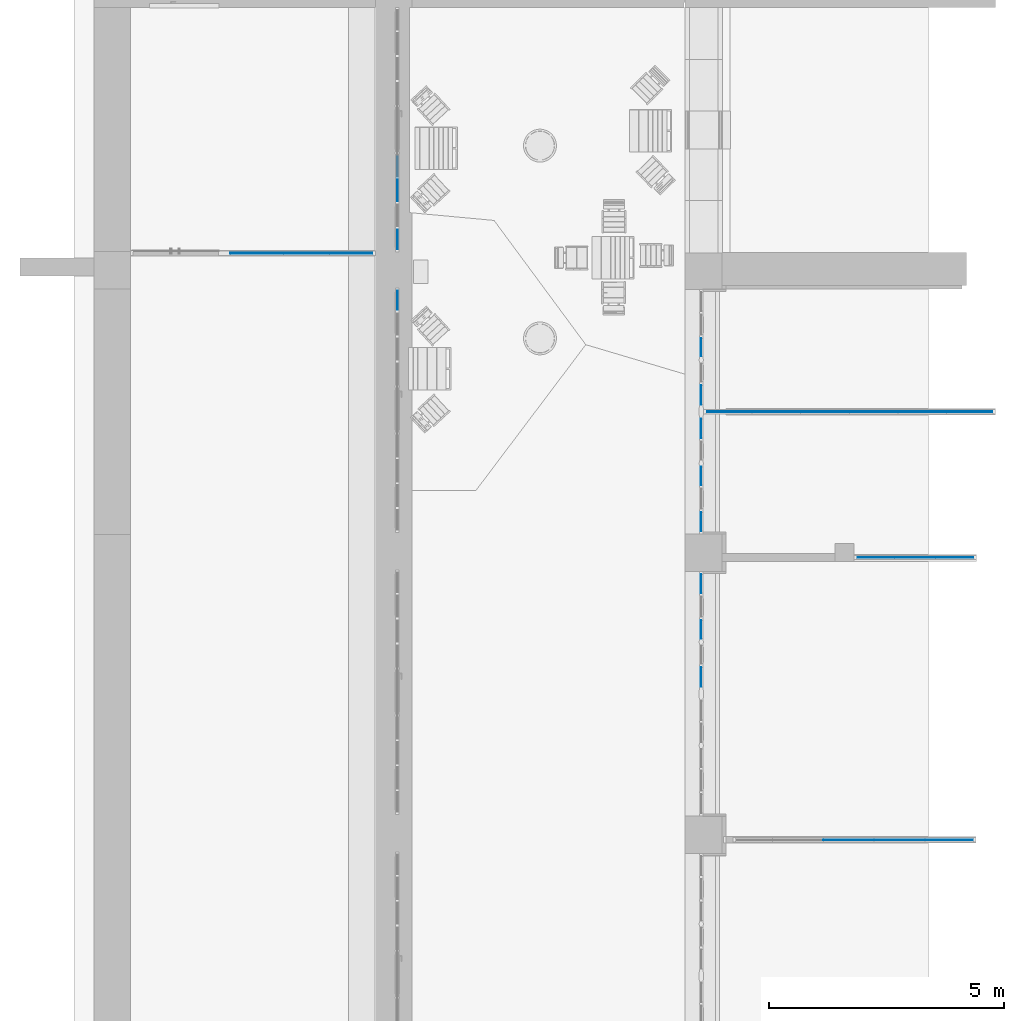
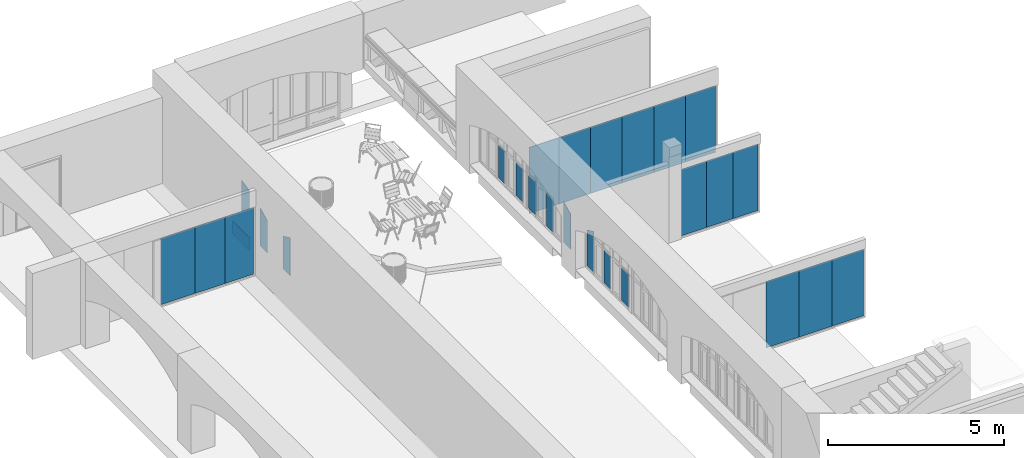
# One storey, part 65 of 88: 27 plates, 8 elements without a shape of their own.
"""IFC2X3 building model written with IfcOpenShell, lengths in millimetres."""

from ifc_helpers import new_model, entity, si_unit, converted_unit, derived_unit, direction, frame, frame_2d, origin, origin_2d_with_axis, place, context, subcontext, project, spatial, polyline, circle_curve, parameter, trimmed, segment, composite_curve, rectangle, outline, extrude, source, transform, mapped, material, type_object, type_shapes, element, aggregate, save


model = new_model("IFC2X3")

# Units and contexts
model_context = context("Model", 3, precision=0.01, world=origin(), true_north=direction((6.123031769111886e-17, 1.0)))
body_context = subcontext(model_context, "Body", "Model", "MODEL_VIEW")
ifc_project = project(units=[si_unit("LENGTHUNIT", "METRE", prefix="MILLI"), si_unit("AREAUNIT", "SQUARE_METRE"), si_unit("VOLUMEUNIT", "CUBIC_METRE"), converted_unit("PLANEANGLEUNIT", "DEGREE", entity("IfcPlaneAngleMeasure", 0.017453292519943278), si_unit("PLANEANGLEUNIT", "RADIAN"), dimensions=[0, 0, 0, 0, 0, 0, 0]), si_unit("MASSUNIT", "GRAM", prefix="KILO"), derived_unit("MASSDENSITYUNIT", [(si_unit("MASSUNIT", "GRAM", prefix="KILO"), 1), (si_unit("LENGTHUNIT", "METRE"), -3)]), derived_unit("IONCONCENTRATIONUNIT", [(si_unit("MASSUNIT", "GRAM", prefix="KILO"), 1), (si_unit("LENGTHUNIT", "METRE"), -3)]), derived_unit("MOMENTOFINERTIAUNIT", [(si_unit("LENGTHUNIT", "METRE"), 4)]), si_unit("TIMEUNIT", "SECOND"), si_unit("FREQUENCYUNIT", "HERTZ"), si_unit("THERMODYNAMICTEMPERATUREUNIT", "DEGREE_CELSIUS"), derived_unit("THERMALTRANSMITTANCEUNIT", [(si_unit("MASSUNIT", "GRAM", prefix="KILO"), 1), (si_unit("THERMODYNAMICTEMPERATUREUNIT", "KELVIN"), -1), (si_unit("TIMEUNIT", "SECOND"), -3)]), derived_unit("THERMALCONDUCTANCEUNIT", [(si_unit("MASSUNIT", "GRAM", prefix="KILO"), 1), (si_unit("THERMODYNAMICTEMPERATUREUNIT", "KELVIN"), -1), (si_unit("TIMEUNIT", "SECOND"), -3), (si_unit("LENGTHUNIT", "METRE"), 1)]), derived_unit("VOLUMETRICFLOWRATEUNIT", [(si_unit("LENGTHUNIT", "METRE", prefix="DECI"), 3), (si_unit("TIMEUNIT", "SECOND"), -1)]), derived_unit("MASSFLOWRATEUNIT", [(si_unit("MASSUNIT", "GRAM", prefix="KILO"), 1), (si_unit("TIMEUNIT", "SECOND"), -1)]), derived_unit("ROTATIONALFREQUENCYUNIT", [(si_unit("TIMEUNIT", "SECOND"), -1)]), si_unit("ELECTRICCURRENTUNIT", "AMPERE"), si_unit("ELECTRICVOLTAGEUNIT", "VOLT"), si_unit("POWERUNIT", "WATT"), si_unit("FORCEUNIT", "NEWTON", prefix="KILO"), si_unit("ILLUMINANCEUNIT", "LUX"), si_unit("LUMINOUSFLUXUNIT", "LUMEN"), si_unit("LUMINOUSINTENSITYUNIT", "CANDELA"), si_unit("ENERGYUNIT", "JOULE"), derived_unit("USERDEFINED", [(si_unit("MASSUNIT", "GRAM", prefix="KILO"), -1), (si_unit("LENGTHUNIT", "METRE"), -2), (si_unit("TIMEUNIT", "SECOND"), 3), (si_unit("LUMINOUSFLUXUNIT", "LUMEN"), 1)]), derived_unit("USERDEFINED", [(si_unit("MASSUNIT", "GRAM", prefix="KILO"), 1), (si_unit("TIMEUNIT", "SECOND"), -3), (si_unit("LENGTHUNIT", "METRE"), 3), (si_unit("ELECTRICCURRENTUNIT", "AMPERE"), -2)]), derived_unit("SOUNDPOWERUNIT", [(si_unit("MASSUNIT", "GRAM", prefix="KILO"), 1), (si_unit("TIMEUNIT", "SECOND"), -3), (si_unit("LENGTHUNIT", "METRE"), 2)]), derived_unit("SOUNDPRESSUREUNIT", [(si_unit("MASSUNIT", "GRAM", prefix="KILO"), 1), (si_unit("LENGTHUNIT", "METRE"), -1), (si_unit("TIMEUNIT", "SECOND"), -2)]), derived_unit("LINEARVELOCITYUNIT", [(si_unit("LENGTHUNIT", "METRE"), 1), (si_unit("TIMEUNIT", "SECOND"), -1)]), si_unit("PRESSUREUNIT", "PASCAL"), derived_unit("USERDEFINED", [(si_unit("MASSUNIT", "GRAM", prefix="KILO"), 1), (si_unit("LENGTHUNIT", "METRE"), -2), (si_unit("TIMEUNIT", "SECOND"), -2)]), derived_unit("LINEARFORCEUNIT", [(si_unit("MASSUNIT", "GRAM", prefix="KILO"), 1), (si_unit("TIMEUNIT", "SECOND"), -2)]), derived_unit("PLANARFORCEUNIT", [(si_unit("MASSUNIT", "GRAM", prefix="KILO"), 1), (si_unit("LENGTHUNIT", "METRE"), -1), (si_unit("TIMEUNIT", "SECOND"), -2)]), derived_unit("SPECIFICHEATCAPACITYUNIT", [(si_unit("THERMODYNAMICTEMPERATUREUNIT", "KELVIN"), -1), (si_unit("LENGTHUNIT", "METRE"), 2), (si_unit("TIMEUNIT", "SECOND"), -2)]), derived_unit("HEATFLUXDENSITYUNIT", [(si_unit("MASSUNIT", "GRAM", prefix="KILO"), 1), (si_unit("TIMEUNIT", "SECOND"), -3)]), derived_unit("HEATINGVALUEUNIT", [(si_unit("LENGTHUNIT", "METRE"), 2), (si_unit("TIMEUNIT", "SECOND"), -2)]), derived_unit("VAPORPERMEABILITYUNIT", [(si_unit("LENGTHUNIT", "METRE"), -1), (si_unit("TIMEUNIT", "SECOND"), 1)]), derived_unit("DYNAMICVISCOSITYUNIT", [(si_unit("MASSUNIT", "GRAM", prefix="KILO"), 1), (si_unit("TIMEUNIT", "SECOND"), -1), (si_unit("LENGTHUNIT", "METRE"), -1)]), derived_unit("THERMALEXPANSIONCOEFFICIENTUNIT", [(si_unit("THERMODYNAMICTEMPERATUREUNIT", "KELVIN"), -1)]), derived_unit("MODULUSOFELASTICITYUNIT", [(si_unit("MASSUNIT", "GRAM", prefix="KILO"), 1), (si_unit("LENGTHUNIT", "METRE"), -1), (si_unit("TIMEUNIT", "SECOND"), -2)]), derived_unit("ISOTHERMALMOISTURECAPACITYUNIT", [(si_unit("MASSUNIT", "GRAM", prefix="KILO"), -1), (si_unit("LENGTHUNIT", "METRE"), 3)]), derived_unit("MOISTUREDIFFUSIVITYUNIT", [(si_unit("TIMEUNIT", "SECOND"), -1), (si_unit("LENGTHUNIT", "METRE"), 2)]), derived_unit("MASSPERLENGTHUNIT", [(si_unit("MASSUNIT", "GRAM", prefix="KILO"), 1), (si_unit("LENGTHUNIT", "METRE"), -1)]), derived_unit("THERMALRESISTANCEUNIT", [(si_unit("MASSUNIT", "GRAM", prefix="KILO"), -1), (si_unit("TIMEUNIT", "SECOND"), 3), (si_unit("THERMODYNAMICTEMPERATUREUNIT", "KELVIN"), 1)]), derived_unit("ACCELERATIONUNIT", [(si_unit("LENGTHUNIT", "METRE"), 1), (si_unit("TIMEUNIT", "SECOND"), -2)]), derived_unit("ANGULARVELOCITYUNIT", [(si_unit("TIMEUNIT", "SECOND"), -1), (si_unit("PLANEANGLEUNIT", "RADIAN"), 1)]), derived_unit("LINEARSTIFFNESSUNIT", [(si_unit("MASSUNIT", "GRAM", prefix="KILO"), 1), (si_unit("TIMEUNIT", "SECOND"), -2)]), derived_unit("WARPINGCONSTANTUNIT", [(si_unit("LENGTHUNIT", "METRE"), 6)]), derived_unit("LINEARMOMENTUNIT", [(si_unit("MASSUNIT", "GRAM", prefix="KILO"), 1), (si_unit("LENGTHUNIT", "METRE"), 1), (si_unit("TIMEUNIT", "SECOND"), -2)]), derived_unit("TORQUEUNIT", [(si_unit("MASSUNIT", "GRAM", prefix="KILO"), 1), (si_unit("LENGTHUNIT", "METRE"), 2), (si_unit("TIMEUNIT", "SECOND"), -2)])], contexts=[model_context])

# Site, building, storey
site_placement = place(None, origin())
site = spatial("IfcSite", under=ifc_project, at=site_placement, Name="Default", CompositionType="ELEMENT")
building_placement = place(site_placement, origin())
building = spatial("IfcBuilding", under=site, at=building_placement, Name="Eesti Rahvusraamatukogu hoone renoveerimise projekteerimistööd", CompositionType="ELEMENT")
storey_placement = place(building_placement, origin())
storey = spatial("IfcBuildingStorey", under=building, at=storey_placement, Name="1. korrus", CompositionType="ELEMENT", Elevation=0.0)

# Curtain wall, plates
curtain_wall_type_1 = type_object("IfcCurtainWallType", Name="Curtain Wall:VLS Klaasvahesein profiilita 38db", PredefinedType="NOTDEFINED")
curtain_wall_1_placement = place(storey_placement, origin())
curtain_wall_1 = element("IfcCurtainWall", 1, at=curtain_wall_1_placement, inside=storey, type_object=curtain_wall_type_1, Name="Curtain Wall:VLS Klaasvahesein profiilita 38db", ObjectType="Curtain Wall:VLS Klaasvahesein profiilita 38db")
ifc_material_1 = material(Name="EST. Klaas. 1x. E-korpus")
plate_type_1 = type_object("IfcPlateType", Name="System Panel:VLS Klaas KAR/LAM 6+1+6", PredefinedType="CURTAIN_PANEL", material=ifc_material_1)
shared_shape_1 = source(origin(), body_context, "Body", "SweptSolid", [
    extrude(rectangle(XDim=13.000000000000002, YDim=928.6246354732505, at=origin_2d_with_axis()), frame((0.0, 0.0, 0.0), z_axis=(0.0, 0.0, 1.0), x_axis=(0.0, 1.0, 0.0)), (0.0, 0.0, 1.0), 2300.0),
])
type_shapes(plate_type_1, [shared_shape_1])
plate_1_placement = place(curtain_wall_1_placement, frame((-43884.312317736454, 48760.37627987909, 50.0), z_axis=(0.0, 0.0, 1.0), x_axis=(-1.0, 0.0, 0.0)))
plate_1 = element("IfcPlate", 2, at=plate_1_placement, type_object=plate_type_1, material=ifc_material_1, Name="System Panel:VLS Klaas KAR/LAM 6+1+6", ObjectType="System Panel:VLS Klaas KAR/LAM 6+1+6", context=body_context, shape_type="MappedRepresentation", body=[
    mapped(shared_shape_1, transform((0.0, 0.0, 0.0), scale=1.0)),
])
plate_type_2 = type_object("IfcPlateType", Name="System Panel:VLS Klaas KAR/LAM 6+1+6", PredefinedType="CURTAIN_PANEL", material=ifc_material_1)
shared_shape_2 = source(origin(), body_context, "Body", "SweptSolid", [
    extrude(rectangle(XDim=13.000000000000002, YDim=978.6246351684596, at=origin_2d_with_axis()), frame((0.0, 0.0, 0.0), z_axis=(0.0, 0.0, 1.0), x_axis=(0.0, 1.0, 0.0)), (0.0, 0.0, 1.0), 2300.0),
])
type_shapes(plate_type_2, [shared_shape_2])
plate_2_placement = place(curtain_wall_1_placement, frame((-44837.93695305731, 48760.3762798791, 50.0), z_axis=(0.0, 0.0, 1.0), x_axis=(-1.0, 0.0, 0.0)))
plate_2 = element("IfcPlate", 3, at=plate_2_placement, type_object=plate_type_2, material=ifc_material_1, Name="System Panel:VLS Klaas KAR/LAM 6+1+6", ObjectType="System Panel:VLS Klaas KAR/LAM 6+1+6", context=body_context, shape_type="MappedRepresentation", body=[
    mapped(shared_shape_2, transform((0.0, 0.0, 0.0), scale=1.0)),
])
plate_type_3 = type_object("IfcPlateType", Name="System Panel:VLS Klaas KAR/LAM 6+1+6", PredefinedType="CURTAIN_PANEL", material=ifc_material_1)
shared_shape_3 = source(origin(), body_context, "Body", "SweptSolid", [
    extrude(rectangle(XDim=13.000000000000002, YDim=1127.717776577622, at=origin_2d_with_axis()), frame((0.0, 0.0, 0.0), z_axis=(0.0, 0.0, 1.0), x_axis=(0.0, 1.0, 0.0)), (0.0, 0.0, 1.0), 2300.0),
])
type_shapes(plate_type_3, [shared_shape_3])
plate_3_placement = place(curtain_wall_1_placement, frame((-45891.10815893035, 48760.3762798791, 50.0), z_axis=(0.0, 0.0, 1.0), x_axis=(-1.0, 0.0, 0.0)))
plate_3 = element("IfcPlate", 4, at=plate_3_placement, type_object=plate_type_3, material=ifc_material_1, Name="System Panel:VLS Klaas KAR/LAM 6+1+6", ObjectType="System Panel:VLS Klaas KAR/LAM 6+1+6", context=body_context, shape_type="MappedRepresentation", body=[
    mapped(shared_shape_3, transform((0.0, 0.0, 0.0), scale=1.0)),
])
aggregate(curtain_wall_1, [plate_1, plate_2, plate_3])

curtain_wall_2_placement = place(storey_placement, origin())
curtain_wall_2 = element("IfcCurtainWall", 5, at=curtain_wall_2_placement, inside=storey, type_object=curtain_wall_type_1, Name="Curtain Wall:VLS Klaasvahesein profiilita 38db", ObjectType="Curtain Wall:VLS Klaasvahesein profiilita 38db")
plate_type_4 = type_object("IfcPlateType", Name="System Panel:VLS Klaas KAR/LAM 6+1+6", PredefinedType="CURTAIN_PANEL", material=ifc_material_1)
shared_shape_4 = source(origin(), body_context, "Body", "SweptSolid", [
    extrude(rectangle(XDim=13.000000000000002, YDim=816.0000000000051, at=origin_2d_with_axis()), frame((0.0, 0.0, 0.0), z_axis=(0.0, 0.0, 1.0), x_axis=(0.0, 1.0, 0.0)), (0.0, 0.0, 1.0), 2300.0000000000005),
])
type_shapes(plate_type_4, [shared_shape_4])
plate_4_placement = place(curtain_wall_2_placement, frame((-32732.0, 42290.0, 1700.0)))
plate_4 = element("IfcPlate", 6, at=plate_4_placement, type_object=plate_type_4, material=ifc_material_1, Name="System Panel:VLS Klaas KAR/LAM 6+1+6", ObjectType="System Panel:VLS Klaas KAR/LAM 6+1+6", context=body_context, shape_type="MappedRepresentation", body=[
    mapped(shared_shape_4, transform((0.0, 0.0, 0.0), scale=1.0)),
])
plate_type_5 = type_object("IfcPlateType", Name="System Panel:VLS Klaas KAR/LAM 6+1+6", PredefinedType="CURTAIN_PANEL", material=ifc_material_1)
shared_shape_5 = source(origin(), body_context, "Body", "SweptSolid", [
    extrude(rectangle(XDim=13.000000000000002, YDim=866.0000000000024, at=origin_2d_with_axis()), frame((0.0, 0.0, 0.0), z_axis=(0.0, 0.0, 1.0), x_axis=(0.0, 1.0, 0.0)), (0.0, 0.0, 1.0), 2300.0000000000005),
])
type_shapes(plate_type_5, [shared_shape_5])
plate_5_placement = place(curtain_wall_2_placement, frame((-31891.0, 42290.0, 1700.0)))
plate_5 = element("IfcPlate", 7, at=plate_5_placement, type_object=plate_type_5, material=ifc_material_1, Name="System Panel:VLS Klaas KAR/LAM 6+1+6", ObjectType="System Panel:VLS Klaas KAR/LAM 6+1+6", context=body_context, shape_type="MappedRepresentation", body=[
    mapped(shared_shape_5, transform((0.0, 0.0, 0.0), scale=1.0)),
])
plate_type_6 = type_object("IfcPlateType", Name="System Panel:VLS Klaas KAR/LAM 6+1+6", PredefinedType="CURTAIN_PANEL", material=ifc_material_1)
shared_shape_6 = source(origin(), body_context, "Body", "SweptSolid", [
    extrude(rectangle(XDim=13.000000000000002, YDim=818.0000000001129, at=origin_2d_with_axis()), frame((0.0, 0.0, 0.0), z_axis=(0.0, 0.0, 1.0), x_axis=(0.0, 1.0, 0.0)), (0.0, 0.0, 1.0), 2300.0000000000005),
])
type_shapes(plate_type_6, [shared_shape_6])
plate_6_placement = place(curtain_wall_2_placement, frame((-31049.0, 42290.0, 1700.0)))
plate_6 = element("IfcPlate", 8, at=plate_6_placement, type_object=plate_type_6, material=ifc_material_1, Name="System Panel:VLS Klaas KAR/LAM 6+1+6", ObjectType="System Panel:VLS Klaas KAR/LAM 6+1+6", context=body_context, shape_type="MappedRepresentation", body=[
    mapped(shared_shape_6, transform((0.0, 0.0, 0.0), scale=1.0)),
])
aggregate(curtain_wall_2, [plate_4, plate_5, plate_6])

# Curtain wall, plate
curtain_wall_type_2 = type_object("IfcCurtainWallType", Name="Curtain Wall:Ak-02", PredefinedType="NOTDEFINED")
curtain_wall_3_placement = place(storey_placement, origin())
curtain_wall_3 = element("IfcCurtainWall", 9, at=curtain_wall_3_placement, inside=storey, type_object=curtain_wall_type_2, Name="Curtain Wall:Ak-02", ObjectType="Curtain Wall:Ak-02")
ifc_material_2 = material(Name="EST. Klaas. 3x. Default")
plate_type_7 = type_object("IfcPlateType", Name="System Panel:Peegelaknad 6-16-4-16-4, paneel", PredefinedType="CURTAIN_PANEL", material=ifc_material_2)
shared_shape_7 = source(origin(), body_context, "Body", "SweptSolid", [
    extrude(outline(composite_curve([segment(polyline([(-838.8855000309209, -200.0), (351.11449996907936, -200.0)]), True, "CONTINUOUS"), segment(polyline([(351.11449996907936, -200.0), (392.3931648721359, -200.0)]), True, "CONTINUOUS"), segment(trimmed(circle_curve(frame_2d((-4419.029401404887, 2340.0), x_axis=(0.9248280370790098, -0.38038546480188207)), 5440.715680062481), [parameter(354.5275221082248)], [parameter(359.19566238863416)], True, "PARAMETER"), True, "CONTINUOUS"), segment(polyline([(583.1488352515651, 200.0), (351.11449996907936, 200.0)]), True, "CONTINUOUS"), segment(polyline([(351.11449996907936, 200.0), (-838.8855000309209, 200.0)]), True, "CONTINUOUS"), segment(polyline([(-838.8855000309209, 200.0), (-838.8855000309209, -200.0)]), True, "CONTINUOUS")], self_intersect=False)), frame((0.0, -5.0, 838.8855000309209), z_axis=(0.0, 1.0, 0.0), x_axis=(0.0, 0.0, 1.0)), (0.0, 0.0, 1.0), 10.0),
])
type_shapes(plate_type_7, [shared_shape_7])
plate_7_placement = place(curtain_wall_3_placement, frame((-36440.0, 41730.0, 2040.0), z_axis=(0.0, 0.0, 1.0), x_axis=(0.0, -1.0, 0.0)))
plate_7 = element("IfcPlate", 10, at=plate_7_placement, type_object=plate_type_7, material=ifc_material_2, Name="System Panel:Peegelaknad 6-16-4-16-4, paneel", ObjectType="System Panel:Peegelaknad 6-16-4-16-4, paneel", context=body_context, shape_type="MappedRepresentation", body=[
    mapped(shared_shape_7, transform((0.0, 0.0, 0.0), scale=1.0)),
])

# Curtain wall, plates
curtain_wall_4_placement = place(storey_placement, origin())
curtain_wall_4 = element("IfcCurtainWall", 11, at=curtain_wall_4_placement, inside=storey, type_object=curtain_wall_type_2, Name="Curtain Wall:Ak-02", ObjectType="Curtain Wall:Ak-02")
plate_type_8 = type_object("IfcPlateType", Name="System Panel:Peegelaknad 6-16-4-16-4, paneel", PredefinedType="CURTAIN_PANEL", material=ifc_material_2)
shared_shape_8 = source(origin(), body_context, "Body", "SweptSolid", [
    extrude(rectangle(XDim=10.0, YDim=384.9999999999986, at=origin_2d_with_axis()), frame((0.0, 0.0, 0.0), z_axis=(0.0, 0.0, 1.0), x_axis=(0.0, 1.0, 0.0)), (0.0, 0.0, 1.0), 1150.0000000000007),
])
type_shapes(plate_type_8, [shared_shape_8])
plate_8_placement = place(curtain_wall_4_placement, frame((-36440.0, 46757.49999999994, 2040.0), z_axis=(0.0, 0.0, 1.0), x_axis=(0.0, -1.0, 0.0)))
plate_8 = element("IfcPlate", 12, at=plate_8_placement, type_object=plate_type_8, material=ifc_material_2, Name="System Panel:Peegelaknad 6-16-4-16-4, paneel", ObjectType="System Panel:Peegelaknad 6-16-4-16-4, paneel", context=body_context, shape_type="MappedRepresentation", body=[
    mapped(shared_shape_8, transform((0.0, 0.0, 0.0), scale=1.0)),
])
plate_9_placement = place(curtain_wall_4_placement, frame((-36440.0, 44022.50000000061, 2040.0), z_axis=(0.0, 0.0, 1.0), x_axis=(0.0, -1.0, 0.0)))
plate_9 = element("IfcPlate", 13, at=plate_9_placement, type_object=plate_type_8, material=ifc_material_2, Name="System Panel:Peegelaknad 6-16-4-16-4, paneel", ObjectType="System Panel:Peegelaknad 6-16-4-16-4, paneel", context=body_context, shape_type="MappedRepresentation", body=[
    mapped(shared_shape_8, transform((0.0, 0.0, 0.0), scale=1.0)),
])

# Plate
plate_10_placement = place(curtain_wall_3_placement, frame((-36440.0, 40757.49999999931, 2040.0), z_axis=(0.0, 0.0, 1.0), x_axis=(0.0, -1.0, 0.0)))
plate_10 = element("IfcPlate", 14, at=plate_10_placement, type_object=plate_type_8, material=ifc_material_2, Name="System Panel:Peegelaknad 6-16-4-16-4, paneel", ObjectType="System Panel:Peegelaknad 6-16-4-16-4, paneel", context=body_context, shape_type="MappedRepresentation", body=[
    mapped(shared_shape_8, transform((0.0, 0.0, 0.0), scale=1.0)),
])

plate_type_9 = type_object("IfcPlateType", Name="System Panel:Peegelaknad 6-16-4-16-4, paneel", PredefinedType="CURTAIN_PANEL", material=ifc_material_2)
shared_shape_9 = source(origin(), body_context, "Body", "SweptSolid", [
    extrude(rectangle(XDim=10.0, YDim=409.9999999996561, at=origin_2d_with_axis()), frame((0.0, 0.0, 0.0), z_axis=(0.0, 0.0, 1.0), x_axis=(0.0, 1.0, 0.0)), (0.0, 0.0, 1.0), 1150.0000000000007),
])
type_shapes(plate_type_9, [shared_shape_9])
plate_11_placement = place(curtain_wall_4_placement, frame((-36440.0, 45745.0, 2040.0), z_axis=(0.0, 0.0, 1.0), x_axis=(0.0, -1.0, 0.0)))
plate_11 = element("IfcPlate", 15, at=plate_11_placement, type_object=plate_type_9, material=ifc_material_2, Name="System Panel:Peegelaknad 6-16-4-16-4, paneel", ObjectType="System Panel:Peegelaknad 6-16-4-16-4, paneel", context=body_context, shape_type="MappedRepresentation", body=[
    mapped(shared_shape_9, transform((0.0, 0.0, 0.0), scale=1.0)),
])

plate_12_placement = place(curtain_wall_4_placement, frame((-36440.0, 45035.0, 2040.0), z_axis=(0.0, 0.0, 1.0), x_axis=(0.0, -1.0, 0.0)))
plate_12 = element("IfcPlate", 16, at=plate_12_placement, type_object=plate_type_9, material=ifc_material_2, Name="System Panel:Peegelaknad 6-16-4-16-4, paneel", ObjectType="System Panel:Peegelaknad 6-16-4-16-4, paneel", context=body_context, shape_type="MappedRepresentation", body=[
    mapped(shared_shape_9, transform((0.0, 0.0, 0.0), scale=1.0)),
])

plate_13_placement = place(curtain_wall_3_placement, frame((-36440.0, 39745.0, 2040.0), z_axis=(0.0, 0.0, 1.0), x_axis=(0.0, -1.0, 0.0)))
plate_13 = element("IfcPlate", 17, at=plate_13_placement, type_object=plate_type_9, material=ifc_material_2, Name="System Panel:Peegelaknad 6-16-4-16-4, paneel", ObjectType="System Panel:Peegelaknad 6-16-4-16-4, paneel", context=body_context, shape_type="MappedRepresentation", body=[
    mapped(shared_shape_9, transform((0.0, 0.0, 0.0), scale=1.0)),
])

aggregate(curtain_wall_3, [plate_7, plate_10, plate_13])

plate_type_10 = type_object("IfcPlateType", Name="System Panel:Peegelaknad 6-16-4-16-4, paneel", PredefinedType="CURTAIN_PANEL", material=ifc_material_2)
shared_shape_10 = source(origin(), body_context, "Body", "SweptSolid", [
    extrude(outline(composite_curve([segment(polyline([(-838.8855000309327, 200.0), (-838.8855000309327, -200.0)]), True, "CONTINUOUS"), segment(polyline([(-838.8855000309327, -200.0), (351.11449996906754, -200.0)]), True, "CONTINUOUS"), segment(polyline([(351.11449996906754, -200.0), (392.39316487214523, -200.0)]), True, "CONTINUOUS"), segment(trimmed(circle_curve(frame_2d((-4419.029401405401, 2340.0), x_axis=(0.8821580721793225, -0.4709534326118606)), 5440.715680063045), [parameter(0.2661645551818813)], [parameter(4.934304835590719)], True, "PARAMETER"), True, "CONTINUOUS"), segment(polyline([(583.1488352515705, 200.0), (351.11449996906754, 200.0)]), True, "CONTINUOUS"), segment(polyline([(351.11449996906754, 200.0), (-838.8855000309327, 200.0)]), True, "CONTINUOUS")], self_intersect=False)), frame((0.0, -5.0, 838.8855000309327), z_axis=(0.0, -1.0, 0.0), x_axis=(0.0, 0.0, 1.0)), (0.0, 0.0, -1.0), 10.0),
])
type_shapes(plate_type_10, [shared_shape_10])
plate_14_placement = place(curtain_wall_4_placement, frame((-36440.0, 43050.0, 2040.0), z_axis=(0.0, 0.0, 1.0), x_axis=(0.0, -1.0, 0.0)))
plate_14 = element("IfcPlate", 18, at=plate_14_placement, type_object=plate_type_10, material=ifc_material_2, Name="System Panel:Peegelaknad 6-16-4-16-4, paneel", ObjectType="System Panel:Peegelaknad 6-16-4-16-4, paneel", context=body_context, shape_type="MappedRepresentation", body=[
    mapped(shared_shape_10, transform((0.0, 0.0, 0.0), scale=1.0)),
])

aggregate(curtain_wall_4, [plate_8, plate_11, plate_12, plate_9, plate_14])

# Curtain wall, plate
curtain_wall_type_3 = type_object("IfcCurtainWallType", Name="Curtain Wall:Ak-05", PredefinedType="NOTDEFINED")
curtain_wall_5_placement = place(storey_placement, origin())
curtain_wall_5 = element("IfcCurtainWall", 19, at=curtain_wall_5_placement, inside=storey, type_object=curtain_wall_type_3, Name="Curtain Wall:Ak-05", ObjectType="Curtain Wall:Ak-05")
plate_type_11 = type_object("IfcPlateType", Name="System Panel:Peegelaknad 6-16-4-16-4, paneel", PredefinedType="CURTAIN_PANEL", material=ifc_material_2)
shared_shape_11 = source(origin(), body_context, "Body", "SweptSolid", [
    extrude(rectangle(XDim=450.00000000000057, YDim=945.0000000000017, at=frame_2d((0.0, 5.833333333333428), x_axis=(1.0, 0.0))), frame((-5.8333333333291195, -5.0, 225.0), z_axis=(0.0, 1.0, 0.0), x_axis=(0.0, 0.0, 1.0)), (0.0, 0.0, 1.0), 10.0),
])
type_shapes(plate_type_11, [shared_shape_11])
plate_15_placement = place(curtain_wall_5_placement, frame((-42905.0, 50342.49999999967, 10.0), z_axis=(0.0, 0.0, 1.0), x_axis=(0.0, -1.0, 0.0)))
plate_15 = element("IfcPlate", 20, at=plate_15_placement, type_object=plate_type_11, material=ifc_material_2, Name="System Panel:Peegelaknad 6-16-4-16-4, paneel", ObjectType="System Panel:Peegelaknad 6-16-4-16-4, paneel", context=body_context, shape_type="MappedRepresentation", body=[
    mapped(shared_shape_11, transform((0.0, 0.0, 0.0), scale=1.0)),
])

curtain_wall_6_placement = place(storey_placement, origin())
curtain_wall_6 = element("IfcCurtainWall", 21, at=curtain_wall_6_placement, inside=storey, type_object=curtain_wall_type_3, Name="Curtain Wall:Ak-05", ObjectType="Curtain Wall:Ak-05")
plate_type_12 = type_object("IfcPlateType", Name="System Panel:Peegelaknad 6-16-4-16-4, paneel", PredefinedType="CURTAIN_PANEL", material=ifc_material_2)
shared_shape_12 = source(origin(), body_context, "Body", "SweptSolid", [
    extrude(outline(composite_curve([segment(polyline([(-610.3301409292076, -205.0), (513.3133718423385, -205.0)]), True, "CONTINUOUS"), segment(trimmed(circle_curve(frame_2d((-4323.610707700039, 2335.0), x_axis=(0.9256428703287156, -0.37839830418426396)), 5463.280566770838), [parameter(354.5293230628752)], [parameter(359.2877436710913)], True, "PARAMETER"), True, "CONTINUOUS"), segment(polyline([(707.3469100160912, 205.0), (-610.3301409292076, 205.0)]), True, "CONTINUOUS"), segment(polyline([(-610.3301409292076, 205.0), (-610.3301409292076, -205.0)]), True, "CONTINUOUS")], self_intersect=False)), frame((0.0, -5.0, 610.3301409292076), z_axis=(0.0, 1.0, 0.0), x_axis=(0.0, 0.0, 1.0)), (0.0, 0.0, 1.0), 10.0),
])
type_shapes(plate_type_12, [shared_shape_12])
plate_16_placement = place(curtain_wall_6_placement, frame((-42905.0, 47760.0, 540.0), z_axis=(0.0, 0.0, 1.0), x_axis=(0.0, -1.0, 0.0)))
plate_16 = element("IfcPlate", 22, at=plate_16_placement, type_object=plate_type_12, material=ifc_material_2, Name="System Panel:Peegelaknad 6-16-4-16-4, paneel", ObjectType="System Panel:Peegelaknad 6-16-4-16-4, paneel", context=body_context, shape_type="MappedRepresentation", body=[
    mapped(shared_shape_12, transform((0.0, 0.0, 0.0), scale=1.0)),
])
aggregate(curtain_wall_6, [plate_16])

# Plate
plate_type_13 = type_object("IfcPlateType", Name="System Panel:Peegelaknad 6-16-4-16-4, paneel", PredefinedType="CURTAIN_PANEL", material=ifc_material_2)
shared_shape_13 = source(origin(), body_context, "Body", "SweptSolid", [
    extrude(outline(composite_curve([segment(polyline([(-794.621917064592, 225.0), (-794.621917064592, -225.0)]), True, "CONTINUOUS"), segment(polyline([(-794.621917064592, -225.0), (739.6716748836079, -225.0)]), True, "CONTINUOUS"), segment(trimmed(circle_curve(frame_2d((-4507.902483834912, 1295.0), x_axis=(0.9592847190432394, -0.2824408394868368)), 5463.280566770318), [parameter(0.25187197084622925)], [parameter(5.111376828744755)], True, "PARAMETER"), True, "CONTINUOUS"), segment(polyline([(849.5721592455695, 225.0), (-794.621917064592, 225.0)]), True, "CONTINUOUS")], self_intersect=False)), frame((0.0, -5.0, 794.621917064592), z_axis=(0.0, -1.0, 0.0), x_axis=(0.0, 0.0, 1.0)), (0.0, 0.0, -1.0), 10.0),
])
type_shapes(plate_type_13, [shared_shape_13])
plate_17_placement = place(curtain_wall_5_placement, frame((-42905.0, 50095.0, 540.0), z_axis=(0.0, 0.0, 1.0), x_axis=(0.0, -1.0, 0.0)))
plate_17 = element("IfcPlate", 23, at=plate_17_placement, type_object=plate_type_13, material=ifc_material_2, Name="System Panel:Peegelaknad 6-16-4-16-4, paneel", ObjectType="System Panel:Peegelaknad 6-16-4-16-4, paneel", context=body_context, shape_type="MappedRepresentation", body=[
    mapped(shared_shape_13, transform((0.0, 0.0, 0.0), scale=1.0)),
])

plate_type_14 = type_object("IfcPlateType", Name="System Panel:Peegelaknad 6-16-4-16-4, paneel", PredefinedType="CURTAIN_PANEL", material=ifc_material_2)
shared_shape_14 = source(origin(), body_context, "Body", "SweptSolid", [
    extrude(outline(composite_curve([segment(polyline([(-610.3301409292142, 205.0), (-610.3301409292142, -205.0)]), True, "CONTINUOUS"), segment(polyline([(-610.3301409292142, -205.0), (513.3133718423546, -205.0)]), True, "CONTINUOUS"), segment(trimmed(circle_curve(frame_2d((-4323.610707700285, 2335.0), x_axis=(0.8822747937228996, -0.4707347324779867)), 5463.280566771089), [parameter(0.37681807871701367)], [parameter(5.135238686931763)], True, "PARAMETER"), True, "CONTINUOUS"), segment(polyline([(707.3469100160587, 205.0), (-610.3301409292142, 205.0)]), True, "CONTINUOUS")], self_intersect=False)), frame((0.0, -5.0, 610.3301409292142), z_axis=(0.0, -1.0, 0.0), x_axis=(0.0, 0.0, 1.0)), (0.0, 0.0, -1.0), 10.0),
])
type_shapes(plate_type_14, [shared_shape_14])
plate_18_placement = place(curtain_wall_5_placement, frame((-42905.0, 49055.0, 540.0), z_axis=(0.0, 0.0, 1.0), x_axis=(0.0, -1.0, 0.0)))
plate_18 = element("IfcPlate", 24, at=plate_18_placement, type_object=plate_type_14, material=ifc_material_2, Name="System Panel:Peegelaknad 6-16-4-16-4, paneel", ObjectType="System Panel:Peegelaknad 6-16-4-16-4, paneel", context=body_context, shape_type="MappedRepresentation", body=[
    mapped(shared_shape_14, transform((0.0, 0.0, 0.0), scale=1.0)),
])

aggregate(curtain_wall_5, [plate_15, plate_17, plate_18])

# Curtain wall, plates
curtain_wall_7_placement = place(storey_placement, origin())
curtain_wall_7 = element("IfcCurtainWall", 25, at=curtain_wall_7_placement, inside=storey, type_object=curtain_wall_type_1, Name="Curtain Wall:VLS Klaasvahesein profiilita 38db", ObjectType="Curtain Wall:VLS Klaasvahesein profiilita 38db")
plate_type_15 = type_object("IfcPlateType", Name="System Panel:VLS Klaas KAR/LAM 6+1+6", PredefinedType="CURTAIN_PANEL", material=ifc_material_1)
shared_shape_15 = source(origin(), body_context, "Body", "SweptSolid", [
    extrude(rectangle(XDim=13.000000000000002, YDim=1080.0000000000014, at=origin_2d_with_axis()), frame((0.0, 0.0, 0.0), z_axis=(0.0, 0.0, 1.0), x_axis=(0.0, 1.0, 0.0)), (0.0, 0.0, 1.0), 2300.0),
])
type_shapes(plate_type_15, [shared_shape_15])
plate_19_placement = place(curtain_wall_7_placement, frame((-33300.0, 36284.741850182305, 1700.0)))
plate_19 = element("IfcPlate", 26, at=plate_19_placement, type_object=plate_type_15, material=ifc_material_1, Name="System Panel:VLS Klaas KAR/LAM 6+1+6", ObjectType="System Panel:VLS Klaas KAR/LAM 6+1+6", context=body_context, shape_type="MappedRepresentation", body=[
    mapped(shared_shape_15, transform((0.0, 0.0, 0.0), scale=1.0)),
])
plate_20_placement = place(curtain_wall_7_placement, frame((-32220.0, 36284.741850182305, 1700.0)))
plate_20 = element("IfcPlate", 27, at=plate_20_placement, type_object=plate_type_15, material=ifc_material_1, Name="System Panel:VLS Klaas KAR/LAM 6+1+6", ObjectType="System Panel:VLS Klaas KAR/LAM 6+1+6", context=body_context, shape_type="MappedRepresentation", body=[
    mapped(shared_shape_15, transform((0.0, 0.0, 0.0), scale=1.0)),
])
plate_type_16 = type_object("IfcPlateType", Name="System Panel:VLS Klaas KAR/LAM 6+1+6", PredefinedType="CURTAIN_PANEL", material=ifc_material_1)
shared_shape_16 = source(origin(), body_context, "Body", "SweptSolid", [
    extrude(rectangle(XDim=13.000000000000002, YDim=1029.9999999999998, at=origin_2d_with_axis()), frame((0.0, 0.0, 0.0), z_axis=(0.0, 0.0, 1.0), x_axis=(0.0, 1.0, 0.0)), (0.0, 0.0, 1.0), 2300.0),
])
type_shapes(plate_type_16, [shared_shape_16])
plate_21_placement = place(curtain_wall_7_placement, frame((-31165.0, 36284.7418501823, 1700.0)))
plate_21 = element("IfcPlate", 28, at=plate_21_placement, type_object=plate_type_16, material=ifc_material_1, Name="System Panel:VLS Klaas KAR/LAM 6+1+6", ObjectType="System Panel:VLS Klaas KAR/LAM 6+1+6", context=body_context, shape_type="MappedRepresentation", body=[
    mapped(shared_shape_16, transform((0.0, 0.0, 0.0), scale=1.0)),
])
aggregate(curtain_wall_7, [plate_19, plate_20, plate_21])

curtain_wall_8_placement = place(storey_placement, origin())
curtain_wall_8 = element("IfcCurtainWall", 29, at=curtain_wall_8_placement, inside=storey, type_object=curtain_wall_type_1, Name="Curtain Wall:VLS Klaasvahesein profiilita 38db", ObjectType="Curtain Wall:VLS Klaasvahesein profiilita 38db")
plate_type_17 = type_object("IfcPlateType", Name="System Panel:VLS Klaas KAR/LAM 6+1+6", PredefinedType="CURTAIN_PANEL", material=ifc_material_1)
shared_shape_17 = source(origin(), body_context, "Body", "SweptSolid", [
    extrude(rectangle(XDim=13.000000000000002, YDim=983.0000000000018, at=origin_2d_with_axis()), frame((0.0, 0.0, 0.0), z_axis=(0.0, 0.0, 1.0), x_axis=(0.0, 1.0, 0.0)), (0.0, 0.0, 1.0), 2300.0),
])
type_shapes(plate_type_17, [shared_shape_17])
plate_22_placement = place(curtain_wall_8_placement, frame((-35848.50000000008, 45390.0, 1700.0)))
plate_22 = element("IfcPlate", 30, at=plate_22_placement, type_object=plate_type_17, material=ifc_material_1, Name="System Panel:VLS Klaas KAR/LAM 6+1+6", ObjectType="System Panel:VLS Klaas KAR/LAM 6+1+6", context=body_context, shape_type="MappedRepresentation", body=[
    mapped(shared_shape_17, transform((0.0, 0.0, 0.0), scale=1.0)),
])
plate_type_18 = type_object("IfcPlateType", Name="System Panel:VLS Klaas KAR/LAM 6+1+6", PredefinedType="CURTAIN_PANEL", material=ifc_material_1)
shared_shape_18 = source(origin(), body_context, "Body", "SweptSolid", [
    extrude(rectangle(XDim=13.000000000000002, YDim=1032.999999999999, at=origin_2d_with_axis()), frame((0.0, 0.0, 0.0), z_axis=(0.0, 0.0, 1.0), x_axis=(0.0, 1.0, 0.0)), (0.0, 0.0, 1.0), 2300.0),
])
type_shapes(plate_type_18, [shared_shape_18])
plate_23_placement = place(curtain_wall_8_placement, frame((-34840.50000000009, 45390.0, 1700.0)))
plate_23 = element("IfcPlate", 31, at=plate_23_placement, type_object=plate_type_18, material=ifc_material_1, Name="System Panel:VLS Klaas KAR/LAM 6+1+6", ObjectType="System Panel:VLS Klaas KAR/LAM 6+1+6", context=body_context, shape_type="MappedRepresentation", body=[
    mapped(shared_shape_18, transform((0.0, 0.0, 0.0), scale=1.0)),
])
plate_24_placement = place(curtain_wall_8_placement, frame((-33807.50000000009, 45390.0, 1700.0)))
plate_24 = element("IfcPlate", 32, at=plate_24_placement, type_object=plate_type_18, material=ifc_material_1, Name="System Panel:VLS Klaas KAR/LAM 6+1+6", ObjectType="System Panel:VLS Klaas KAR/LAM 6+1+6", context=body_context, shape_type="MappedRepresentation", body=[
    mapped(shared_shape_18, transform((0.0, 0.0, 0.0), scale=1.0)),
])
plate_25_placement = place(curtain_wall_8_placement, frame((-32774.50000000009, 45390.0, 1700.0)))
plate_25 = element("IfcPlate", 33, at=plate_25_placement, type_object=plate_type_18, material=ifc_material_1, Name="System Panel:VLS Klaas KAR/LAM 6+1+6", ObjectType="System Panel:VLS Klaas KAR/LAM 6+1+6", context=body_context, shape_type="MappedRepresentation", body=[
    mapped(shared_shape_18, transform((0.0, 0.0, 0.0), scale=1.0)),
])
plate_26_placement = place(curtain_wall_8_placement, frame((-31741.500000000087, 45390.0, 1700.0)))
plate_26 = element("IfcPlate", 34, at=plate_26_placement, type_object=plate_type_18, material=ifc_material_1, Name="System Panel:VLS Klaas KAR/LAM 6+1+6", ObjectType="System Panel:VLS Klaas KAR/LAM 6+1+6", context=body_context, shape_type="MappedRepresentation", body=[
    mapped(shared_shape_18, transform((0.0, 0.0, 0.0), scale=1.0)),
])
plate_type_19 = type_object("IfcPlateType", Name="System Panel:VLS Klaas KAR/LAM 6+1+6", PredefinedType="CURTAIN_PANEL", material=ifc_material_1)
shared_shape_19 = source(origin(), body_context, "Body", "SweptSolid", [
    extrude(rectangle(XDim=13.000000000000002, YDim=989.9999999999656, at=origin_2d_with_axis()), frame((0.0, 0.0, 0.0), z_axis=(0.0, 0.0, 1.0), x_axis=(0.0, 1.0, 0.0)), (0.0, 0.0, 1.0), 2300.0),
])
type_shapes(plate_type_19, [shared_shape_19])
plate_27_placement = place(curtain_wall_8_placement, frame((-30730.0, 45390.0, 1700.0)))
plate_27 = element("IfcPlate", 35, at=plate_27_placement, type_object=plate_type_19, material=ifc_material_1, Name="System Panel:VLS Klaas KAR/LAM 6+1+6", ObjectType="System Panel:VLS Klaas KAR/LAM 6+1+6", context=body_context, shape_type="MappedRepresentation", body=[
    mapped(shared_shape_19, transform((0.0, 0.0, 0.0), scale=1.0)),
])
aggregate(curtain_wall_8, [plate_22, plate_23, plate_24, plate_25, plate_26, plate_27])

save(model, "model.ifc")
